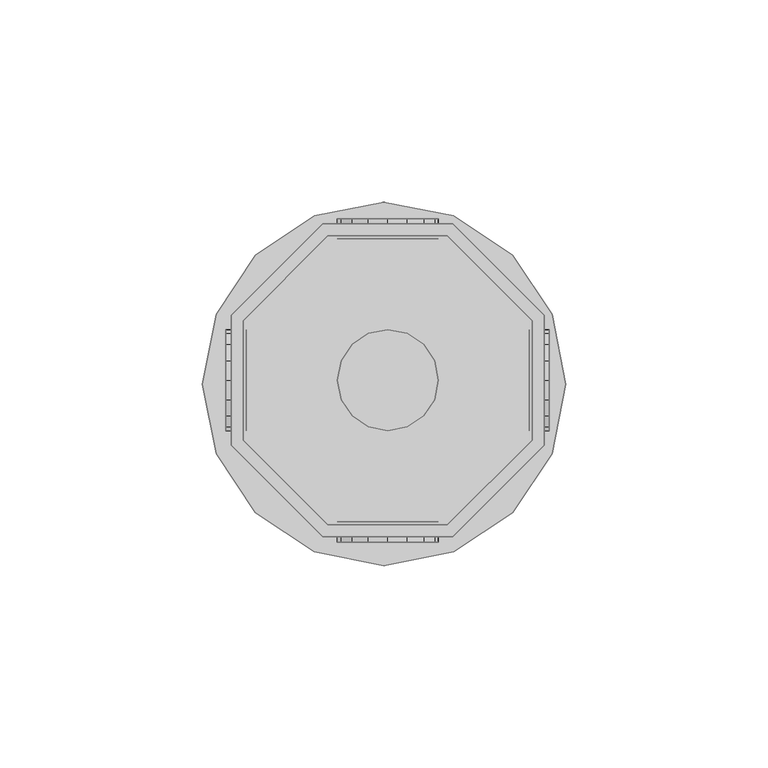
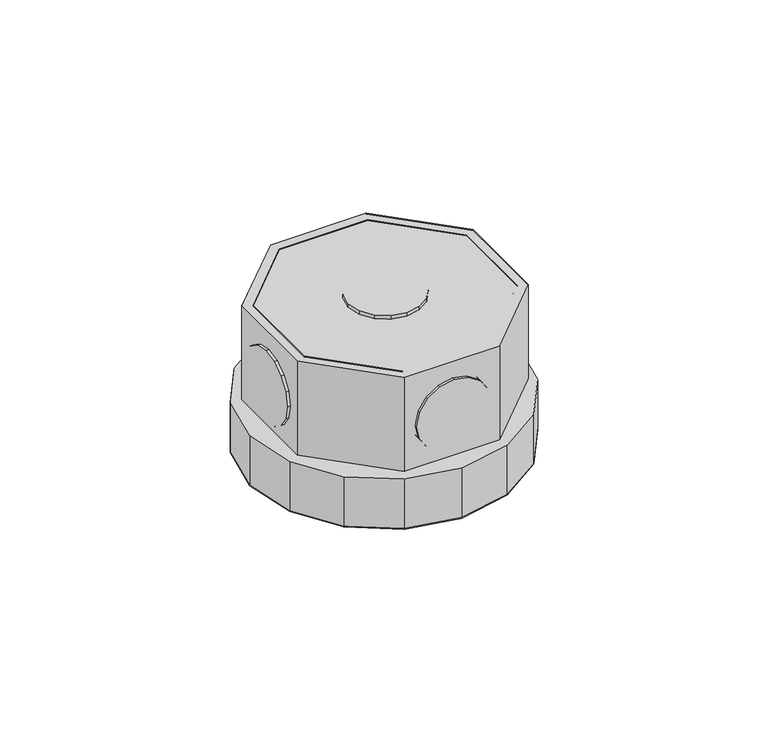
"""IFC4 building model written with IfcOpenShell, lengths in millimetres: light fixture geometry,  212602 :  212602."""

from ifc_helpers import new_model, si_unit, origin, place, context, project, spatial, triangles, source, transform, mapped, element, save


def light_fixture_92a58c7b(model_context):
    return source(origin(), model_context, "Body", "Tessellation", [
        triangles([(29953.399585, 16777.1003632, 2924.5999741), (29953.399585, 16806.6997192, 2975.400071), (29953.399585, 16806.6997192, 2924.5999741), (29953.399585, 16777.1003632, 2975.400071), (29878.8994812, 16775.9004364, 2924.5999741), (29878.8994812, 16807.9996399, 2975.400071), (29878.8994812, 16807.9996399, 2924.5999741), (29878.8994812, 16775.9004364, 2975.400071), (29932.4008667, 16827.6996002, 2975.400071), (29932.4008667, 16827.6996002, 2924.5999741), (29901.6004211, 16753.1994965, 2924.5999741), (29901.6004211, 16753.1994965, 2975.400071), (29902.8003479, 16827.6996002, 2975.400071), (29902.8003479, 16827.6996002, 2924.5999741), (29933.7007874, 16753.1994965, 2924.5999741), (29933.7007874, 16753.1994965, 2975.400071), (29881.8992981, 16806.6997192, 2975.400071), (29881.8992981, 16806.6997192, 2924.5999741), (29956.3994019, 16775.9004364, 2924.5999741), (29956.3994019, 16775.9004364, 2975.400071), (29881.8992981, 16777.1003632, 2924.5999741), (29881.8992981, 16777.1003632, 2975.400071), (29956.3994019, 16807.9996399, 2975.400071), (29956.3994019, 16807.9996399, 2924.5999741), (29902.8003479, 16756.2004761, 2924.5999741), (29902.8003479, 16756.2004761, 2975.400071), (29933.7007874, 16830.7005798, 2975.400071), (29933.7007874, 16830.7005798, 2924.5999741), (29901.6004211, 16830.7005798, 2975.400071), (29932.4008667, 16756.2004761, 2975.400071), (29932.4008667, 16756.2004761, 2924.5999741), (29901.6004211, 16830.7005798, 2924.5999741), (29902.8003479, 16827.6996002, 2972.3999634), (29881.8992981, 16806.6997192, 2972.3999634), (29881.8992981, 16777.1003632, 2972.3999634), (29902.8003479, 16756.2004761, 2972.3999634), (29932.4008667, 16756.2004761, 2972.3999634), (29953.399585, 16777.1003632, 2972.3999634), (29953.399585, 16806.6997192, 2972.3999634), (29932.4008667, 16827.6996002, 2972.3999634), (29933.7007874, 16830.7005798, 2942.4000504), (29956.3994019, 16807.9996399, 2942.4000504), (29956.3994019, 16775.9004364, 2942.4000504), (29933.7007874, 16753.1994965, 2942.4000504), (29901.6004211, 16753.1994965, 2942.4000504), (29878.8994812, 16775.9004364, 2942.4000504), (29878.8994812, 16807.9996399, 2942.4000504), (29901.6004211, 16830.7005798, 2942.4000504), (29875.199707, 16808.2996216, 2942.4000504), (29899.5005493, 16832.6004639, 2942.4000504), (29884.899115, 16822.8998932, 2942.4000504), (29916.6994995, 16836.0002563, 2942.4000504), (29934.000769, 16832.6004639, 2942.4000504), (29948.5998779, 16822.8998932, 2942.4000504), (29958.2992859, 16808.2996216, 2942.4000504), (29961.6990784, 16790.9995148, 2942.4000504), (29958.2992859, 16773.8005646, 2942.4000504), (29934.000769, 16749.4997223, 2942.4000504), (29948.5998779, 16759.200293, 2942.4000504), (29871.6999207, 16790.9995148, 2942.4000504), (29875.199707, 16773.8005646, 2942.4000504), (29884.899115, 16759.200293, 2942.4000504), (29899.5005493, 16749.4997223, 2942.4000504), (29916.6994995, 16745.9999359, 2942.4000504), (29899.5005493, 16832.6004639, 2924.5999741), (29875.199707, 16808.2996216, 2924.5999741), (29884.899115, 16822.8998932, 2924.5999741), (29916.6994995, 16836.0002563, 2924.5999741), (29934.000769, 16832.6004639, 2924.5999741), (29948.5998779, 16822.8998932, 2924.5999741), (29958.2992859, 16808.2996216, 2924.5999741), (29961.6990784, 16790.9995148, 2924.5999741), (29958.2992859, 16773.8005646, 2924.5999741), (29934.000769, 16749.4997223, 2924.5999741), (29948.5998779, 16759.200293, 2924.5999741), (29871.6999207, 16790.9995148, 2924.5999741), (29875.199707, 16773.8005646, 2924.5999741), (29884.899115, 16759.200293, 2924.5999741), (29899.5005493, 16749.4997223, 2924.5999741), (29916.6994995, 16745.9999359, 2924.5999741), (29957.5993286, 16803.4999146, 2952.6000092), (29957.5993286, 16796.7003296, 2945.9001274), (29957.5993286, 16800.8000793, 2948.5999626), (29957.5993286, 16804.3998596, 2957.4000069), (29957.5993286, 16791.8994598, 2944.8998978), (29957.5993286, 16803.4999146, 2962.2000046), (29957.5993286, 16787.0997528, 2945.9001274), (29957.5993286, 16800.8000793, 2966.2000511), (29957.5993286, 16783.0999969, 2948.5999626), (29957.5993286, 16796.7003296, 2968.8998863), (29957.5993286, 16780.4001617, 2952.6000092), (29957.5993286, 16791.8994598, 2969.900116), (29957.5993286, 16779.4002228, 2957.4000069), (29957.5993286, 16787.0997528, 2968.8998863), (29957.5993286, 16780.4001617, 2962.2000046), (29957.5993286, 16783.0999969, 2966.2000511), (29952.5996338, 16796.7003296, 2945.9001274), (29952.5996338, 16803.4999146, 2952.6000092), (29952.5996338, 16800.8000793, 2948.5999626), (29952.5996338, 16791.8994598, 2944.8998978), (29952.5996338, 16804.3998596, 2957.4000069), (29952.5996338, 16787.0997528, 2945.9001274), (29952.5996338, 16803.4999146, 2962.2000046), (29952.5996338, 16783.0999969, 2948.5999626), (29952.5996338, 16800.8000793, 2966.2000511), (29952.5996338, 16796.7003296, 2968.8998863), (29952.5996338, 16780.4001617, 2952.6000092), (29952.5996338, 16791.8994598, 2969.900116), (29952.5996338, 16779.4002228, 2957.4000069), (29952.5996338, 16787.0997528, 2968.8998863), (29952.5996338, 16780.4001617, 2962.2000046), (29952.5996338, 16783.0999969, 2966.2000511), (29882.5992554, 16803.4999146, 2952.6000092), (29882.5992554, 16796.7003296, 2945.9001274), (29882.5992554, 16800.8000793, 2948.5999626), (29882.5992554, 16804.3998596, 2957.4000069), (29882.5992554, 16791.8994598, 2944.8998978), (29882.5992554, 16803.4999146, 2962.2000046), (29882.5992554, 16787.0997528, 2945.9001274), (29882.5992554, 16800.8000793, 2966.2000511), (29882.5992554, 16783.0999969, 2948.5999626), (29882.5992554, 16796.7003296, 2968.8998863), (29882.5992554, 16780.4001617, 2952.6000092), (29882.5992554, 16791.8994598, 2969.900116), (29882.5992554, 16779.4002228, 2957.4000069), (29882.5992554, 16787.0997528, 2968.8998863), (29882.5992554, 16780.4001617, 2962.2000046), (29882.5992554, 16783.0999969, 2966.2000511), (29877.5995605, 16796.7003296, 2945.9001274), (29877.5995605, 16803.4999146, 2952.6000092), (29877.5995605, 16800.8000793, 2948.5999626), (29877.5995605, 16791.8994598, 2944.8998978), (29877.5995605, 16804.3998596, 2957.4000069), (29877.5995605, 16787.0997528, 2945.9001274), (29877.5995605, 16803.4999146, 2962.2000046), (29877.5995605, 16783.0999969, 2948.5999626), (29877.5995605, 16800.8000793, 2966.2000511), (29877.5995605, 16796.7003296, 2968.8998863), (29877.5995605, 16780.4001617, 2952.6000092), (29877.5995605, 16791.8994598, 2969.900116), (29877.5995605, 16779.4002228, 2957.4000069), (29877.5995605, 16787.0997528, 2968.8998863), (29877.5995605, 16780.4001617, 2962.2000046), (29877.5995605, 16783.0999969, 2966.2000511), (29912.7997375, 16826.899649, 2945.9001274), (29906.1001465, 16826.899649, 2952.6000092), (29908.7999817, 16826.899649, 2948.5999626), (29917.5994446, 16826.899649, 2944.8998978), (29905.1002075, 16826.899649, 2957.4000069), (29922.3991516, 16826.899649, 2945.9001274), (29906.1001465, 16826.899649, 2962.2000046), (29926.4989014, 16826.899649, 2948.5999626), (29908.7999817, 16826.899649, 2966.2000511), (29912.7997375, 16826.899649, 2968.8998863), (29929.201062, 16826.899649, 2952.6000092), (29917.5994446, 16826.899649, 2969.900116), (29930.1010071, 16826.899649, 2957.4000069), (29922.3991516, 16826.899649, 2968.8998863), (29929.201062, 16826.899649, 2962.2000046), (29926.4989014, 16826.899649, 2966.2000511), (29906.1001465, 16831.9005066, 2952.6000092), (29912.7997375, 16831.9005066, 2945.9001274), (29908.7999817, 16831.9005066, 2948.5999626), (29905.1002075, 16831.9005066, 2957.4000069), (29917.5994446, 16831.9005066, 2944.8998978), (29906.1001465, 16831.9005066, 2962.2000046), (29922.3991516, 16831.9005066, 2945.9001274), (29908.7999817, 16831.9005066, 2966.2000511), (29926.4989014, 16831.9005066, 2948.5999626), (29912.7997375, 16831.9005066, 2968.8998863), (29929.201062, 16831.9005066, 2952.6000092), (29917.5994446, 16831.9005066, 2969.900116), (29930.1010071, 16831.9005066, 2957.4000069), (29922.3991516, 16831.9005066, 2968.8998863), (29929.201062, 16831.9005066, 2962.2000046), (29926.4989014, 16831.9005066, 2966.2000511), (29912.7997375, 16751.8995758, 2945.9001274), (29906.1001465, 16751.8995758, 2952.6000092), (29908.7999817, 16751.8995758, 2948.5999626), (29917.5994446, 16751.8995758, 2944.8998978), (29905.1002075, 16751.8995758, 2957.4000069), (29922.3991516, 16751.8995758, 2945.9001274), (29906.1001465, 16751.8995758, 2962.2000046), (29926.4989014, 16751.8995758, 2948.5999626), (29908.7999817, 16751.8995758, 2966.2000511), (29912.7997375, 16751.8995758, 2968.8998863), (29929.201062, 16751.8995758, 2952.6000092), (29917.5994446, 16751.8995758, 2969.900116), (29930.1010071, 16751.8995758, 2957.4000069), (29922.3991516, 16751.8995758, 2968.8998863), (29929.201062, 16751.8995758, 2962.2000046), (29926.4989014, 16751.8995758, 2966.2000511), (29906.1001465, 16756.9004333, 2952.6000092), (29912.7997375, 16756.9004333, 2945.9001274), (29908.7999817, 16756.9004333, 2948.5999626), (29905.1002075, 16756.9004333, 2957.4000069), (29917.5994446, 16756.9004333, 2944.8998978), (29906.1001465, 16756.9004333, 2962.2000046), (29922.3991516, 16756.9004333, 2945.9001274), (29908.7999817, 16756.9004333, 2966.2000511), (29926.4989014, 16756.9004333, 2948.5999626), (29912.7997375, 16756.9004333, 2968.8998863), (29929.201062, 16756.9004333, 2952.6000092), (29917.5994446, 16756.9004333, 2969.900116), (29930.1010071, 16756.9004333, 2957.4000069), (29922.3991516, 16756.9004333, 2968.8998863), (29929.201062, 16756.9004333, 2962.2000046), (29926.4989014, 16756.9004333, 2966.2000511), (29906.1001465, 16796.7003296, 2976.9999733), (29912.7997375, 16803.4999146, 2976.9999733), (29908.7999817, 16800.8000793, 2976.9999733), (29917.5994446, 16804.3998596, 2976.9999733), (29905.1002075, 16791.8994598, 2976.9999733), (29922.3991516, 16803.4999146, 2976.9999733), (29906.1001465, 16787.0997528, 2976.9999733), (29926.4989014, 16800.8000793, 2976.9999733), (29908.7999817, 16783.0999969, 2976.9999733), (29929.201062, 16796.7003296, 2976.9999733), (29912.7997375, 16780.4001617, 2976.9999733), (29930.1010071, 16791.8994598, 2976.9999733), (29917.5994446, 16779.4002228, 2976.9999733), (29929.201062, 16787.0997528, 2976.9999733), (29922.3991516, 16780.4001617, 2976.9999733), (29926.4989014, 16783.0999969, 2976.9999733), (29912.7997375, 16803.4999146, 2971.9999878), (29906.1001465, 16796.7003296, 2971.9999878), (29908.7999817, 16800.8000793, 2971.9999878), (29917.5994446, 16804.3998596, 2971.9999878), (29905.1002075, 16791.8994598, 2971.9999878), (29922.3991516, 16803.4999146, 2971.9999878), (29906.1001465, 16787.0997528, 2971.9999878), (29926.4989014, 16800.8000793, 2971.9999878), (29908.7999817, 16783.0999969, 2971.9999878), (29929.201062, 16796.7003296, 2971.9999878), (29912.7997375, 16780.4001617, 2971.9999878), (29930.1010071, 16791.8994598, 2971.9999878), (29917.5994446, 16779.4002228, 2971.9999878), (29929.201062, 16787.0997528, 2971.9999878), (29922.3991516, 16780.4001617, 2971.9999878), (29926.4989014, 16783.0999969, 2971.9999878)], [[1, 2, 3], [2, 1, 4], [5, 6, 7], [6, 5, 8], [3, 9, 10], [9, 3, 2], [11, 8, 5], [8, 11, 12], [10, 13, 14], [13, 10, 9], [15, 12, 11], [12, 15, 16], [14, 17, 18], [17, 14, 13], [19, 16, 15], [16, 19, 20], [17, 21, 18], [21, 17, 22], [23, 19, 24], [19, 23, 20], [22, 25, 21], [25, 22, 26], [27, 24, 28], [24, 27, 23], [6, 13, 29], [29, 13, 27], [27, 13, 9], [27, 9, 23], [23, 9, 2], [23, 2, 4], [23, 4, 20], [20, 4, 30], [8, 17, 6], [6, 17, 13], [17, 8, 22], [12, 22, 8], [22, 12, 26], [30, 26, 12], [16, 30, 12], [20, 30, 16], [30, 1, 31], [1, 30, 4], [6, 32, 7], [32, 6, 29], [32, 14, 7], [28, 14, 32], [14, 28, 10], [24, 10, 28], [10, 24, 3], [1, 3, 24], [19, 1, 24], [31, 1, 19], [7, 18, 5], [14, 18, 7], [5, 18, 21], [5, 21, 11], [11, 21, 25], [11, 25, 31], [11, 31, 15], [15, 31, 19], [26, 31, 25], [31, 26, 30], [29, 28, 32], [28, 29, 27], [17, 33, 34], [33, 17, 13], [35, 17, 34], [17, 35, 22], [36, 22, 35], [22, 36, 26], [37, 26, 36], [26, 37, 30], [38, 30, 37], [30, 38, 4], [2, 38, 39], [38, 2, 4], [17, 9, 13], [9, 17, 22], [9, 22, 2], [2, 22, 26], [2, 26, 4], [4, 26, 30], [13, 40, 33], [40, 13, 9], [40, 34, 33], [35, 34, 40], [35, 40, 39], [35, 39, 36], [36, 39, 38], [36, 38, 37], [9, 39, 40], [39, 9, 2], [24, 41, 28], [41, 24, 42], [19, 42, 24], [42, 19, 43], [44, 19, 15], [19, 44, 43], [45, 15, 11], [15, 45, 44], [46, 11, 5], [11, 46, 45], [47, 5, 7], [5, 47, 46], [32, 47, 7], [47, 32, 48], [28, 48, 32], [48, 28, 41], [49, 50, 51], [48, 50, 49], [50, 48, 52], [41, 52, 48], [52, 41, 53], [53, 41, 54], [42, 54, 41], [54, 42, 55], [55, 42, 43], [55, 43, 56], [56, 43, 57], [57, 43, 44], [57, 44, 58], [57, 58, 59], [47, 49, 60], [49, 47, 48], [47, 60, 46], [61, 46, 60], [46, 61, 62], [46, 62, 45], [45, 62, 63], [44, 45, 63], [44, 63, 64], [44, 64, 58], [65, 66, 67], [66, 65, 32], [68, 32, 65], [32, 68, 28], [28, 68, 69], [70, 28, 69], [28, 70, 24], [71, 24, 70], [19, 24, 71], [19, 71, 72], [73, 19, 72], [19, 73, 15], [74, 15, 73], [74, 73, 75], [76, 66, 7], [32, 7, 66], [5, 76, 7], [76, 5, 77], [77, 5, 78], [11, 78, 5], [78, 11, 79], [79, 11, 15], [79, 15, 80], [80, 15, 74], [57, 75, 73], [75, 57, 59], [56, 73, 72], [73, 56, 57], [55, 72, 71], [72, 55, 56], [54, 71, 70], [71, 54, 55], [53, 70, 69], [70, 53, 54], [52, 69, 68], [69, 52, 53], [50, 68, 65], [68, 50, 52], [51, 65, 67], [65, 51, 50], [66, 51, 67], [51, 66, 49], [76, 49, 66], [49, 76, 60], [77, 60, 76], [60, 77, 61], [78, 61, 77], [61, 78, 62], [79, 62, 78], [62, 79, 63], [80, 63, 79], [63, 80, 64], [75, 58, 74], [58, 75, 59], [74, 64, 80], [64, 74, 58], [81, 82, 83], [82, 81, 84], [85, 82, 84], [85, 84, 86], [87, 85, 86], [87, 86, 88], [87, 88, 89], [89, 88, 90], [89, 90, 91], [91, 90, 92], [91, 92, 93], [93, 92, 94], [93, 94, 95], [95, 94, 96], [97, 98, 99], [98, 97, 100], [101, 98, 100], [101, 100, 102], [103, 101, 102], [103, 102, 104], [103, 104, 105], [105, 104, 106], [106, 104, 107], [106, 107, 108], [108, 107, 109], [108, 109, 110], [110, 109, 111], [110, 111, 112], [87, 104, 102], [104, 87, 89], [85, 102, 100], [102, 85, 87], [82, 100, 97], [100, 82, 85], [83, 97, 99], [97, 83, 82], [98, 83, 99], [83, 98, 81], [101, 81, 98], [81, 101, 84], [103, 84, 101], [84, 103, 86], [105, 86, 103], [86, 105, 88], [106, 88, 105], [88, 106, 90], [108, 90, 106], [90, 108, 92], [110, 92, 108], [92, 110, 94], [112, 94, 110], [94, 112, 96], [95, 112, 111], [112, 95, 96], [93, 111, 109], [111, 93, 95], [89, 107, 104], [107, 89, 91], [91, 109, 107], [109, 91, 93], [113, 114, 115], [114, 113, 116], [117, 114, 116], [117, 116, 118], [119, 117, 118], [119, 118, 120], [119, 120, 121], [121, 120, 122], [121, 122, 123], [123, 122, 124], [123, 124, 125], [125, 124, 126], [125, 126, 127], [127, 126, 128], [129, 130, 131], [130, 129, 132], [133, 130, 132], [133, 132, 134], [135, 133, 134], [135, 134, 136], [135, 136, 137], [137, 136, 138], [138, 136, 139], [138, 139, 140], [140, 139, 141], [140, 141, 142], [142, 141, 143], [142, 143, 144], [119, 136, 134], [136, 119, 121], [117, 134, 132], [134, 117, 119], [114, 132, 129], [132, 114, 117], [115, 129, 131], [129, 115, 114], [130, 115, 131], [115, 130, 113], [133, 113, 130], [113, 133, 116], [135, 116, 133], [116, 135, 118], [137, 118, 135], [118, 137, 120], [138, 120, 137], [120, 138, 122], [140, 122, 138], [122, 140, 124], [142, 124, 140], [124, 142, 126], [144, 126, 142], [126, 144, 128], [127, 144, 143], [144, 127, 128], [125, 143, 141], [143, 125, 127], [121, 139, 136], [139, 121, 123], [123, 141, 139], [141, 123, 125], [145, 146, 147], [146, 145, 148], [149, 146, 148], [149, 148, 150], [151, 149, 150], [151, 150, 152], [151, 152, 153], [153, 152, 154], [154, 152, 155], [154, 155, 156], [156, 155, 157], [156, 157, 158], [158, 157, 159], [158, 159, 160], [161, 162, 163], [162, 161, 164], [165, 162, 164], [165, 164, 166], [167, 165, 166], [167, 166, 168], [169, 167, 168], [169, 168, 170], [169, 170, 171], [171, 170, 172], [171, 172, 173], [173, 172, 174], [173, 174, 175], [175, 174, 176], [158, 176, 174], [176, 158, 160], [156, 174, 172], [174, 156, 158], [154, 172, 170], [172, 154, 156], [153, 170, 168], [170, 153, 154], [151, 168, 166], [168, 151, 153], [149, 166, 164], [166, 149, 151], [146, 164, 161], [164, 146, 149], [147, 161, 163], [161, 147, 146], [162, 147, 163], [147, 162, 145], [165, 145, 162], [145, 165, 148], [167, 148, 165], [148, 167, 150], [169, 150, 167], [150, 169, 152], [171, 152, 169], [152, 171, 155], [173, 155, 171], [155, 173, 157], [176, 159, 175], [159, 176, 160], [175, 157, 173], [157, 175, 159], [177, 178, 179], [178, 177, 180], [181, 178, 180], [181, 180, 182], [183, 181, 182], [183, 182, 184], [183, 184, 185], [185, 184, 186], [186, 184, 187], [186, 187, 188], [188, 187, 189], [188, 189, 190], [190, 189, 191], [190, 191, 192], [193, 194, 195], [194, 193, 196], [197, 194, 196], [197, 196, 198], [199, 197, 198], [199, 198, 200], [201, 199, 200], [201, 200, 202], [201, 202, 203], [203, 202, 204], [203, 204, 205], [205, 204, 206], [205, 206, 207], [207, 206, 208], [190, 208, 206], [208, 190, 192], [188, 206, 204], [206, 188, 190], [186, 204, 202], [204, 186, 188], [185, 202, 200], [202, 185, 186], [183, 200, 198], [200, 183, 185], [181, 198, 196], [198, 181, 183], [178, 196, 193], [196, 178, 181], [179, 193, 195], [193, 179, 178], [194, 179, 195], [179, 194, 177], [197, 177, 194], [177, 197, 180], [199, 180, 197], [180, 199, 182], [201, 182, 199], [182, 201, 184], [203, 184, 201], [184, 203, 187], [205, 187, 203], [187, 205, 189], [208, 191, 207], [191, 208, 192], [207, 189, 205], [189, 207, 191], [209, 210, 211], [212, 210, 209], [212, 209, 213], [214, 212, 213], [214, 213, 215], [216, 214, 215], [216, 215, 217], [216, 217, 218], [218, 217, 219], [218, 219, 220], [220, 219, 221], [220, 221, 222], [222, 221, 223], [222, 223, 224], [225, 226, 227], [226, 225, 228], [229, 226, 228], [229, 228, 230], [231, 229, 230], [231, 230, 232], [231, 232, 233], [233, 232, 234], [233, 234, 235], [235, 234, 236], [235, 236, 237], [237, 236, 238], [237, 238, 239], [239, 238, 240], [222, 240, 238], [240, 222, 224], [220, 238, 236], [238, 220, 222], [218, 236, 234], [236, 218, 220], [216, 234, 232], [234, 216, 218], [214, 232, 230], [232, 214, 216], [212, 230, 228], [230, 212, 214], [210, 228, 225], [228, 210, 212], [211, 225, 227], [225, 211, 210], [226, 211, 227], [211, 226, 209], [229, 209, 226], [209, 229, 213], [231, 213, 229], [213, 231, 215], [233, 215, 231], [215, 233, 217], [235, 217, 233], [217, 235, 219], [237, 219, 235], [219, 237, 221], [240, 223, 239], [223, 240, 224], [239, 221, 237], [221, 239, 223]], closed=False),
    ])


if __name__ == "__main__":
    model = new_model("IFC4")
    model_context = context("Model", 3, world=origin())
    ifc_project = project(units=[si_unit("LENGTHUNIT", "METRE", prefix="MILLI")], contexts=[model_context])
    site = spatial("IfcSite", under=ifc_project)
    building = spatial("IfcBuilding", under=site)
    placement = place(None, origin())
    light_fixture_shape = light_fixture_92a58c7b(model_context)
    element("IfcLightFixture", 1, ObjectType=" 212602 :  212602", at=placement, inside=building, context=model_context, shape_type="MappedRepresentation", body=[
        mapped(light_fixture_shape, transform((0.0, 0.0, 0.0), x_axis=(1.0, 0.0, 0.0), y_axis=(0.0, 1.0, 0.0), z_axis=(0.0, 0.0, 1.0))),
    ])
    save(model, "model.ifc")
